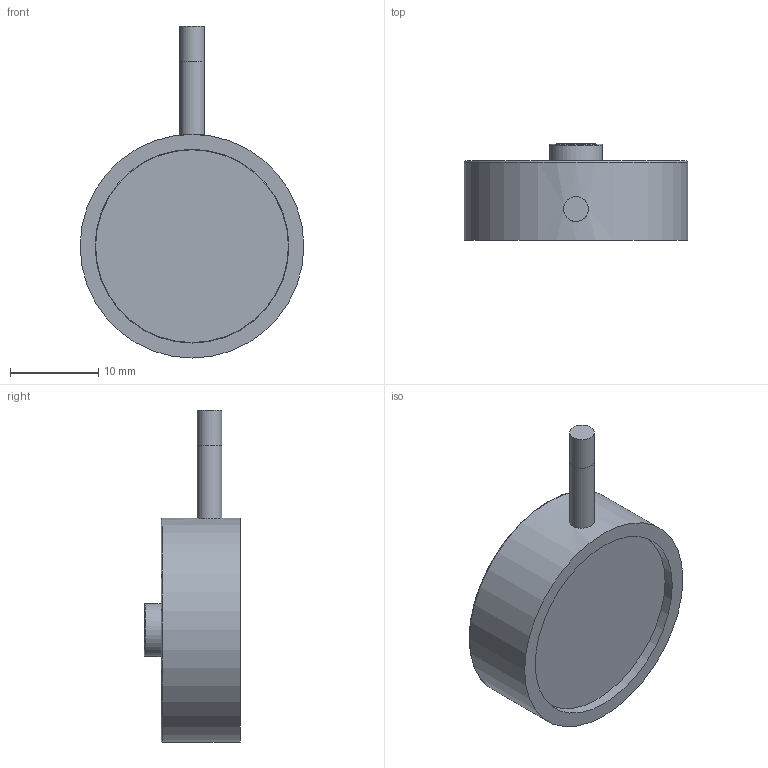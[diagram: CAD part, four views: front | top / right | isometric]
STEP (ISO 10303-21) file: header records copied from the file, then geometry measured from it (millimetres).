
FILE_DESCRIPTION(/* description */ ('Alibre Inc.'),/* implementation_level */ '2;1');
FILE_NAME(/* name */ 'export0',/* time_stamp */ '2015-03-05T10:38:14+01:00',/* author */ (''),/* organization */ (''),/* preprocessor_version */ 'ST-DEVELOPER v14',/* originating_system */ 'Alibre',/* authorisation */ '');
FILE_SCHEMA (('CONFIG_CONTROL_DESIGN'));
Length unit declared in the file: centimetre
Products named in the file (7): ID_1; ID_2; ID_3
Bounding box: 25.4 x 10.97 x 37.7 mm (x, y, z)
Volume: 4377.4 mm3; surface area: 3928.6 mm2
Topology: 6 solids, 6 shells, 514 faces, 1328 edges, 885 vertices
Faces by surface type: plane 336, bspline 138, cylinder 37, torus 2, sphere 1
Full cylindrical faces by diameter (mm): 2.8 x3, 6 x1, 19 x1, 20 x1, 21.9 x1, 22 x1, 25.4 x1
Entity records: 16030 total; most frequent: CARTESIAN_POINT 4024, ORIENTED_EDGE 2628, DIRECTION 1539, EDGE_CURVE 1314, VECTOR 966, LINE 966, VERTEX_POINT 882, EDGE_LOOP 580
